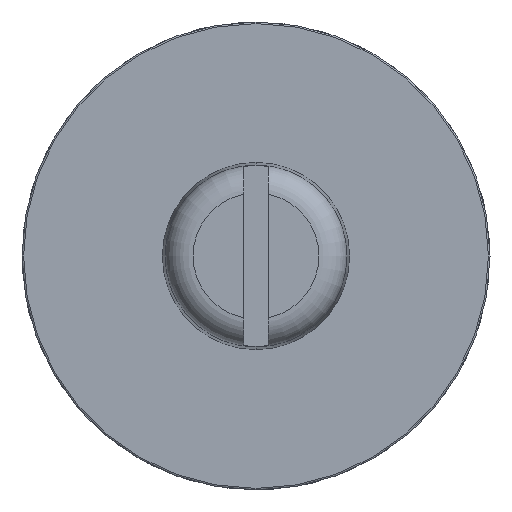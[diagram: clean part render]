
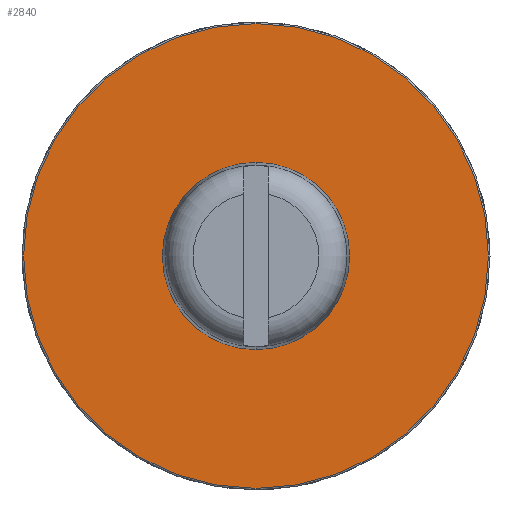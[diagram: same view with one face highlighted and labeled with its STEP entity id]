
A CAD part, front view. The second image highlights one B-rep face of the part: STEP entity #2840.
In plain terms, the highlighted planar face has unit normal (0, -1, 0).
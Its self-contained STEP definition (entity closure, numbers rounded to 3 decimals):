
#294 = ORIENTED_EDGE ( 'NONE', *, *, #4015, .T. ) ;
#336 = DIRECTION ( 'NONE',  ( 0., 0., 1. ) ) ;
#405 = VERTEX_POINT ( 'NONE', #3574 ) ;
#466 = DIRECTION ( 'NONE',  ( 0., 0., 1. ) ) ;
#791 = VERTEX_POINT ( 'NONE', #4247 ) ;
#988 = CARTESIAN_POINT ( 'NONE',  ( 0., -0.5, 0. ) ) ;
#1015 = ORIENTED_EDGE ( 'NONE', *, *, #6325, .T. ) ;
#1603 = DIRECTION ( 'NONE',  ( 0., 0., 1. ) ) ;
#1989 = CIRCLE ( 'NONE', #3879, 3.25 ) ;
#2010 = PLANE ( 'NONE',  #6269 ) ;
#2773 = CARTESIAN_POINT ( 'NONE',  ( 0., -0.5, 0. ) ) ;
#2840 = ADVANCED_FACE ( 'NONE', ( #5313, #5270 ), #2010, .F. ) ;
#3159 = CIRCLE ( 'NONE', #4706, 14.9 ) ;
#3482 = CARTESIAN_POINT ( 'NONE',  ( 0., -0.5, 14.9 ) ) ;
#3574 = CARTESIAN_POINT ( 'NONE',  ( 0., -0.5, 3.25 ) ) ;
#3673 = CARTESIAN_POINT ( 'NONE',  ( 0., -0.5, 0. ) ) ;
#3826 = EDGE_CURVE ( 'NONE', #405, #791, #6808, .T. ) ;
#3879 = AXIS2_PLACEMENT_3D ( 'NONE', #988, #5494, #1603 ) ;
#4015 = EDGE_CURVE ( 'NONE', #791, #405, #1989, .T. ) ;
#4039 = ORIENTED_EDGE ( 'NONE', *, *, #5666, .T. ) ;
#4122 = AXIS2_PLACEMENT_3D ( 'NONE', #4155, #5826, #6453 ) ;
#4155 = CARTESIAN_POINT ( 'NONE',  ( 0., -0.5, 0. ) ) ;
#4247 = CARTESIAN_POINT ( 'NONE',  ( 0., -0.5, -3.25 ) ) ;
#4706 = AXIS2_PLACEMENT_3D ( 'NONE', #2773, #4934, #466 ) ;
#4726 = DIRECTION ( 'NONE',  ( 0., 0., 1. ) ) ;
#4934 = DIRECTION ( 'NONE',  ( 0., -1., 0. ) ) ;
#5235 = DIRECTION ( 'NONE',  ( 0., 1., 0. ) ) ;
#5270 = FACE_BOUND ( 'NONE', #5813, .T. ) ;
#5300 = EDGE_LOOP ( 'NONE', ( #4039, #1015 ) ) ;
#5313 = FACE_OUTER_BOUND ( 'NONE', #5300, .T. ) ;
#5494 = DIRECTION ( 'NONE',  ( 0., 1., 0. ) ) ;
#5657 = CARTESIAN_POINT ( 'NONE',  ( 0., -0.5, -14.9 ) ) ;
#5666 = EDGE_CURVE ( 'NONE', #6521, #7206, #6926, .T. ) ;
#5813 = EDGE_LOOP ( 'NONE', ( #6265, #294 ) ) ;
#5826 = DIRECTION ( 'NONE',  ( 0., -1., 0. ) ) ;
#5910 = DIRECTION ( 'NONE',  ( 0., 1., 0. ) ) ;
#6265 = ORIENTED_EDGE ( 'NONE', *, *, #3826, .T. ) ;
#6269 = AXIS2_PLACEMENT_3D ( 'NONE', #6413, #5235, #4726 ) ;
#6325 = EDGE_CURVE ( 'NONE', #7206, #6521, #3159, .T. ) ;
#6413 = CARTESIAN_POINT ( 'NONE',  ( 0., -0.5, 0. ) ) ;
#6453 = DIRECTION ( 'NONE',  ( 0., 0., 1. ) ) ;
#6521 = VERTEX_POINT ( 'NONE', #3482 ) ;
#6808 = CIRCLE ( 'NONE', #6916, 3.25 ) ;
#6916 = AXIS2_PLACEMENT_3D ( 'NONE', #3673, #5910, #336 ) ;
#6926 = CIRCLE ( 'NONE', #4122, 14.9 ) ;
#7206 = VERTEX_POINT ( 'NONE', #5657 ) ;
